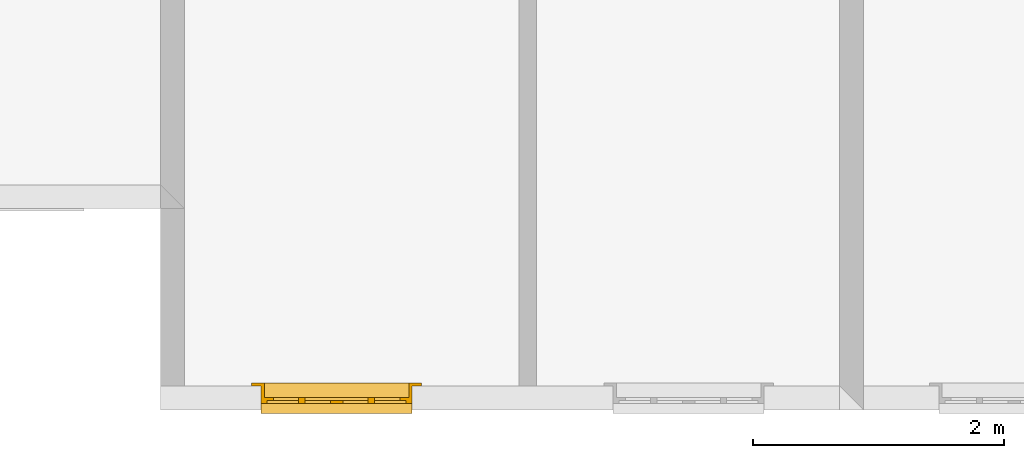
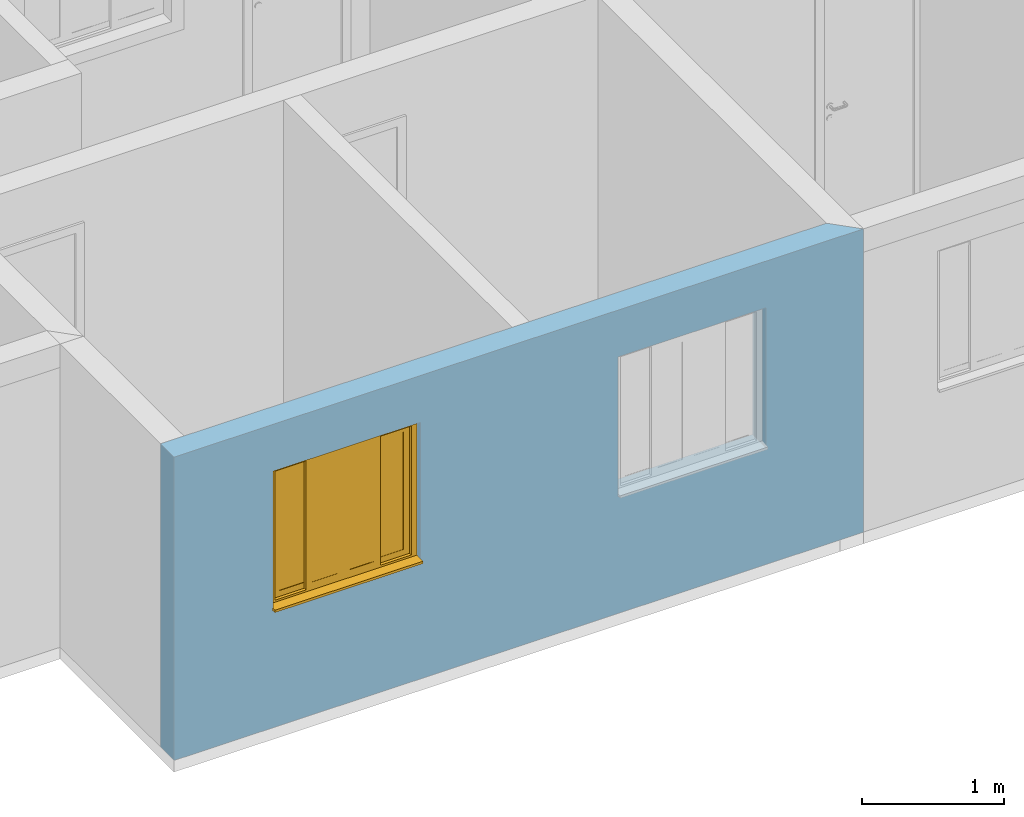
# One storey, part 6 of 47: 1 window, 2 openings, plus 1 element that does not belong to this part.
"""IFC2X3 building model written with IfcOpenShell, lengths in millimetres."""

from ifc_helpers import new_model, entity, si_unit, converted_unit, derived_unit, money_unit, direction, frame, origin_with_axes, origin_2d_with_axis, place, context, subcontext, project, spatial, polyline, rectangle, outline, extrude, open_shell, faceted_brep, surface_model, source, transform, mapped, material, layer, layer_set, layer_usage, type_object, element, fill, save


model = new_model("IFC2X3")

# Units and contexts
model_context = context("Model", 3, precision=0.01, world=origin_with_axes(), true_north=direction((0.0, 1.0)))
body_context = subcontext(model_context, "Body", "Model", "MODEL_VIEW")
ifc_project = project(units=[si_unit("LENGTHUNIT", "METRE", prefix="MILLI"), si_unit("AREAUNIT", "SQUARE_METRE"), si_unit("VOLUMEUNIT", "CUBIC_METRE"), converted_unit("PLANEANGLEUNIT", "DEGREE", entity("IfcPlaneAngleMeasure", 0.0174532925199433), si_unit("PLANEANGLEUNIT", "RADIAN"), dimensions=[0, 0, 0, 0, 0, 0, 0]), money_unit("USD"), converted_unit("TIMEUNIT", "Year", entity("IfcTimeMeasure", 31557600.0), si_unit("TIMEUNIT", "SECOND"), dimensions=[0, 0, 1, 0, 0, 0, 0]), si_unit("MASSUNIT", "GRAM", prefix="KILO"), si_unit("THERMODYNAMICTEMPERATUREUNIT", "DEGREE_CELSIUS"), si_unit("LUMINOUSINTENSITYUNIT", "LUMEN"), si_unit("ENERGYUNIT", "JOULE", prefix="MEGA"), derived_unit("THERMALCONDUCTANCEUNIT", [(si_unit("POWERUNIT", "WATT"), 1), (si_unit("LENGTHUNIT", "METRE"), -1), (si_unit("THERMODYNAMICTEMPERATUREUNIT", "KELVIN"), -1)]), derived_unit("SPECIFICHEATCAPACITYUNIT", [(si_unit("ENERGYUNIT", "JOULE"), 1), (si_unit("MASSUNIT", "GRAM", prefix="KILO"), -1), (si_unit("THERMODYNAMICTEMPERATUREUNIT", "KELVIN"), -1)]), derived_unit("MASSDENSITYUNIT", [(si_unit("MASSUNIT", "GRAM", prefix="KILO"), 1), (si_unit("VOLUMEUNIT", "CUBIC_METRE"), -1)])], contexts=[model_context])

# Site, building, storey
site_placement = place(None, origin_with_axes())
site = spatial("IfcSite", under=ifc_project, at=site_placement, Name="Local", CompositionType="ELEMENT")
building_placement = place(site_placement, origin_with_axes())
building = spatial("IfcBuilding", under=site, at=building_placement, Name="Construção", CompositionType="ELEMENT")
storey_placement = place(building_placement, origin_with_axes())
storey = spatial("IfcBuildingStorey", under=building, at=storey_placement, Name="Pavimento Tipo", CompositionType="ELEMENT", Elevation=0.0)

# Wall, openings, window
ifc_material = material(Name="Concreto - Estrutural")
ifc_layer = layer(ifc_material, 190.0, ventilated="UNKNOWN")
ifc_layer_set = layer_set([ifc_layer], Name="Concreto - Estrutural 190")
ifc_layer_usage = layer_usage(ifc_layer_set, "AXIS2", "NEGATIVE", 190.0)
wall_type = type_object("IfcWallType", Name="Concreto - Estrutural 190", PredefinedType="NOTDEFINED")
wall_placement = place(storey_placement, frame((-4547.433002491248, -1603.018582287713, 0.0), z_axis=(0.0, 0.0, 1.0), x_axis=(1.0, 0.0, 0.0)))
wall = element("IfcWallStandardCase", 1, at=wall_placement, inside=storey, type_object=wall_type, material=ifc_layer_usage, Name="Apartamento 3 - Parede-004", context=body_context, shape_type="SweptSolid", body=[
    extrude(outline(polyline([(0.0, 0.0), (5589.999999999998, 0.0), (5399.999999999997, 189.9999999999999), (0.0, 189.9999999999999), (0.0, 0.0)])), origin_with_axes(), (0.0, 0.0, 1.0), 2600.0),
])
opening_1_placement = place(wall_placement, frame((4199.999999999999, 0.0, 1000.0), z_axis=(0.0, 0.0, 1.0), x_axis=(1.0, 0.0, 0.0)))
element("IfcOpeningElement", 2, at=opening_1_placement, cuts=wall, Name="Apartamento 3 - J06", context=body_context, shape_type="SweptSolid", body=[
    extrude(rectangle(XDim=1200.0, YDim=1200.0, at=origin_2d_with_axis()), frame((0.0, 50.00000000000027, 600.0000000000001), z_axis=(0.0, -1.0, 0.0), x_axis=(-1.0, 0.0, 0.0)), (0.0, 0.0, -1.0), 330.0),
    extrude(rectangle(XDim=1200.0, YDim=1200.0, at=origin_2d_with_axis()), frame((0.0, 50.00000000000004, 600.0000000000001), z_axis=(0.0, 1.0, 0.0), x_axis=(-1.0, 0.0, 0.0)), (0.0, 0.0, -1.0), 240.0),
    extrude(rectangle(XDim=1350.0, YDim=1350.0, at=origin_2d_with_axis()), frame((0.0, 190.0000000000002, 599.9999999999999), z_axis=(0.0, -1.0, 0.0), x_axis=(-1.0, 0.0, 0.0)), (0.0, 0.0, -1.0), 240.0),
])
opening_2_placement = place(wall_placement, frame((1400.0, 0.0, 1000.0), z_axis=(0.0, 0.0, 1.0), x_axis=(1.0, 0.0, 0.0)))
opening_2 = element("IfcOpeningElement", 3, at=opening_2_placement, cuts=wall, Name="Apartamento 3 - J05", context=body_context, shape_type="SweptSolid", body=[
    extrude(rectangle(XDim=1200.0, YDim=1200.0, at=origin_2d_with_axis()), frame((0.0, 50.00000000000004, 600.0000000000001), z_axis=(0.0, 1.0, 0.0), x_axis=(1.0, 0.0, 0.0)), (0.0, 0.0, 1.0), 330.0),
    extrude(rectangle(XDim=1200.0, YDim=1200.0, at=origin_2d_with_axis()), frame((0.0, 50.00000000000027, 600.0000000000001), z_axis=(0.0, -1.0, 0.0), x_axis=(1.0, 0.0, 0.0)), (0.0, 0.0, 1.0), 240.0),
    extrude(rectangle(XDim=1350.0, YDim=1350.0, at=origin_2d_with_axis()), frame((0.0, 189.9999999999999, 599.9999999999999), z_axis=(0.0, 1.0, 0.0), x_axis=(1.0, 0.0, 0.0)), (0.0, 0.0, 1.0), 240.0),
])
window_style = type_object("IfcWindowStyle", Name="Janela de Correr 4-Folhas 27", ConstructionType="NOTDEFINED", OperationType="USERDEFINED", ParameterTakesPrecedence=False, Sizeable=False)
shared_shape = source(origin_with_axes(), body_context, "Body", "SurfaceModel", [
    faceted_brep([(600.0, 0.0, 5.0), (600.0, 50.0, 5.000000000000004), (600.0, 50.0, 27.37961103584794), (600.0, 0.0, 30.0), (-600.0, 0.0, 5.0), (-600.0, 50.0, 5.000000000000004), (-600.0, 80.0, 5.000000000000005), (600.0, 80.0, 5.000000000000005), (600.0, 80.0, 25.8073776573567), (-600.0, 80.0, 25.8073776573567), (-600.0, 50.0, 27.37961103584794), (-600.0, 0.0, 30.0)], [[[0, 1, 2, 3]], [[0, 4, 5, 6, 7, 1]], [[1, 7, 8, 2]], [[3, 2, 8, 9, 10, 11]], [[4, 0, 3, 11]], [[5, 4, 11, 10]], [[6, 5, 10, 9]], [[7, 6, 9, 8]]]),
    faceted_brep([(600.0, 0.0, 0.0), (600.0, 50.0, 0.0), (600.0, 50.0, 5.0), (600.0, 0.0, 5.0), (-600.0, 0.0, 0.0), (-600.0, 50.0, 0.0), (-600.0, 50.0, 5.0), (-600.0, 0.0, 5.0)], [[[0, 1, 2, 3]], [[0, 4, 5, 1]], [[1, 5, 6, 2]], [[3, 2, 6, 7]], [[4, 0, 3, 7]], [[5, 4, 7, 6]]]),
    faceted_brep([(600.0, -50.0, 0.0), (600.0, -140.0, 0.0), (-600.0, -140.0, 0.0), (-600.0, -50.0, 0.0), (600.0, -50.00000000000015, 1200.0), (600.0, -140.0000000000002, 1200.0), (-600.0, -140.0000000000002, 1200.0), (575.0, -140.0, 24.99999999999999), (-575.0, -140.0, 24.99999999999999), (-575.0, -140.0000000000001, 1175.0), (575.0, -140.0000000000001, 1175.0), (-600.0, -50.00000000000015, 1200.0), (575.0, -50.0, 24.99999999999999), (575.0, -50.00000000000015, 1175.0), (-575.0, -50.00000000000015, 1175.0), (-575.0, -50.0, 24.99999999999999)], [[[0, 1, 2, 3]], [[4, 5, 1, 0]], [[1, 5, 6, 2], [7, 8, 9, 10]], [[3, 2, 6, 11]], [[0, 3, 11, 4], [12, 13, 14, 15]], [[11, 6, 5, 4]], [[15, 8, 7, 12]], [[14, 9, 8, 15]], [[13, 10, 9, 14]], [[12, 7, 10, 13]]]),
    faceted_brep([(674.9999999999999, -165.0, -75.00000000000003), (575.0, -165.0, 24.99999999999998), (575.0, -140.0, 24.99999999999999), (674.9999999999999, -140.0, -75.00000000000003), (674.9999999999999, -165.0000000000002, 1275.0), (575.0, -165.0000000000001, 1175.0), (575.0, -140.0000000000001, 1175.0), (674.9999999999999, -140.0000000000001, 1275.0)], [[[0, 1, 2, 3]], [[0, 4, 5, 1]], [[1, 5, 6, 2]], [[3, 2, 6, 7]], [[4, 0, 3, 7]], [[5, 4, 7, 6]]]),
    faceted_brep([(-674.9999999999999, -165.0000000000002, 1275.0), (-575.0, -165.0000000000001, 1175.0), (-575.0, -140.0000000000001, 1175.0), (-674.9999999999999, -140.0000000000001, 1275.0), (-674.9999999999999, -165.0, -75.00000000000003), (-575.0, -165.0, 24.99999999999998), (-575.0, -140.0, 24.99999999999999), (-674.9999999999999, -140.0, -75.00000000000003)], [[[0, 1, 2, 3]], [[0, 4, 5, 1]], [[1, 5, 6, 2]], [[3, 2, 6, 7]], [[4, 0, 3, 7]], [[5, 4, 7, 6]]]),
    faceted_brep([(-674.9999999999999, -165.0, -75.00000000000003), (-575.0, -165.0, 24.99999999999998), (-575.0, -140.0, 24.99999999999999), (-674.9999999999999, -140.0, -75.00000000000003), (674.9999999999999, -165.0, -75.00000000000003), (575.0, -165.0, 24.99999999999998), (575.0, -140.0, 24.99999999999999), (674.9999999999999, -140.0, -75.00000000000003)], [[[0, 1, 2, 3]], [[0, 4, 5, 1]], [[1, 5, 6, 2]], [[3, 2, 6, 7]], [[4, 0, 3, 7]], [[5, 4, 7, 6]]]),
    faceted_brep([(674.9999999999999, -165.0000000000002, 1275.0), (575.0, -165.0000000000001, 1175.0), (575.0, -140.0000000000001, 1175.0), (674.9999999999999, -140.0000000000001, 1275.0), (-674.9999999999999, -165.0000000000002, 1275.0), (-575.0, -165.0000000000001, 1175.0), (-575.0, -140.0000000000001, 1175.0), (-674.9999999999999, -140.0000000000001, 1275.0)], [[[0, 1, 2, 3]], [[0, 4, 5, 1]], [[1, 5, 6, 2]], [[3, 2, 6, 7]], [[4, 0, 3, 7]], [[5, 4, 7, 6]]]),
    faceted_brep([(552.9999999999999, -50.00000000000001, 47.0), (552.9999999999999, -50.00000000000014, 1153.0), (552.9999999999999, 0.0, 1153.0), (552.9999999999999, 0.0, 47.00000000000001), (600.0, -50.00000000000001, 47.0), (600.0, -50.00000000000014, 1153.0), (600.0, 0.0, 1153.0), (600.0, 0.0, 47.00000000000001)], [[[0, 1, 2, 3]], [[0, 4, 5, 1]], [[1, 5, 6, 2]], [[3, 2, 6, 7]], [[4, 0, 3, 7]], [[5, 4, 7, 6]]]),
    faceted_brep([(-600.0, -50.00000000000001, 47.0), (-600.0, -50.00000000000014, 1153.0), (-600.0, 0.0, 1153.0), (-600.0, 0.0, 47.00000000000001), (-552.9999999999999, -50.00000000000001, 47.0), (-552.9999999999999, -50.00000000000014, 1153.0), (-552.9999999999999, 0.0, 1153.0), (-552.9999999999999, 0.0, 47.00000000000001)], [[[0, 1, 2, 3]], [[0, 4, 5, 1]], [[1, 5, 6, 2]], [[3, 2, 6, 7]], [[4, 0, 3, 7]], [[5, 4, 7, 6]]]),
    faceted_brep([(-600.0, -50.00000000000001, 47.0), (-552.9999999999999, -50.00000000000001, 47.0), (-552.9999999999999, 0.0, 47.00000000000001), (-600.0, 0.0, 47.00000000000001), (-600.0, -50.0, 0.0), (600.0, -50.0, 0.0), (600.0, -50.00000000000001, 47.0), (552.9999999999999, -50.00000000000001, 47.0), (552.9999999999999, 0.0, 47.00000000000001), (600.0, 0.0, 47.00000000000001), (600.0, 0.0, 0.0), (-600.0, 0.0, 0.0)], [[[0, 1, 2, 3]], [[0, 4, 5, 6, 7, 1]], [[1, 7, 8, 2]], [[3, 2, 8, 9, 10, 11]], [[4, 0, 3, 11]], [[5, 4, 11, 10]], [[6, 5, 10, 9]], [[7, 6, 9, 8]]]),
    faceted_brep([(-600.0, -50.00000000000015, 1200.0), (600.0, -50.00000000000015, 1200.0), (600.0, 0.0, 1200.0), (-600.0, 0.0, 1200.0), (-600.0, -50.00000000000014, 1153.0), (-552.9999999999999, -50.00000000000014, 1153.0), (-276.5, -50.00000000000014, 1153.0), (0.0, -50.00000000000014, 1153.0), (276.4999999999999, -50.00000000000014, 1153.0), (552.9999999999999, -50.00000000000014, 1153.0), (600.0, -50.00000000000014, 1153.0), (600.0, 0.0, 1153.0), (552.9999999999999, 0.0, 1153.0), (276.4999999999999, 0.0, 1153.0), (0.0, 0.0, 1153.0), (-276.5, 0.0, 1153.0), (-552.9999999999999, 0.0, 1153.0), (-600.0, 0.0, 1153.0)], [[[0, 1, 2, 3]], [[0, 4, 5, 6, 7, 8, 9, 10, 1]], [[1, 10, 11, 2]], [[3, 2, 11, 12, 13, 14, 15, 16, 17]], [[4, 0, 3, 17]], [[5, 4, 17, 16]], [[6, 5, 16, 15]], [[7, 6, 15, 14]], [[8, 7, 14, 13]], [[9, 8, 13, 12]], [[10, 9, 12, 11]]]),
    faceted_brep([(502.9999999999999, -50.00000000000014, 1103.0), (552.9999999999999, -50.00000000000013, 1103.0), (552.9999999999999, -25.00000000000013, 1103.0), (502.9999999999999, -25.00000000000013, 1103.0), (502.9999999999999, -50.00000000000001, 97.0), (552.9999999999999, -50.00000000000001, 97.0), (552.9999999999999, -25.0, 97.0), (502.9999999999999, -25.00000000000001, 97.0)], [[[0, 1, 2, 3]], [[0, 4, 5, 1]], [[1, 5, 6, 2]], [[3, 2, 6, 7]], [[4, 0, 3, 7]], [[5, 4, 7, 6]]]),
    faceted_brep([(301.4999999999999, -50.00000000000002, 97.0), (251.4999999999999, -50.00000000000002, 97.0), (251.4999999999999, -25.00000000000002, 97.0), (301.4999999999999, -25.00000000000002, 97.0), (301.4999999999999, -50.00000000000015, 1103.0), (251.4999999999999, -50.00000000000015, 1103.0), (251.4999999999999, -25.00000000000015, 1103.0), (301.4999999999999, -25.00000000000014, 1103.0)], [[[0, 1, 2, 3]], [[0, 4, 5, 1]], [[1, 5, 6, 2]], [[3, 2, 6, 7]], [[4, 0, 3, 7]], [[5, 4, 7, 6]]]),
    faceted_brep([(251.4999999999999, -50.00000000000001, 47.0), (251.4999999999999, -50.00000000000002, 97.0), (251.4999999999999, -25.00000000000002, 97.0), (251.4999999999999, -25.00000000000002, 47.0), (552.9999999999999, -50.0, 47.0), (552.9999999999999, -50.00000000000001, 97.0), (502.9999999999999, -50.00000000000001, 97.0), (301.4999999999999, -50.00000000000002, 97.0), (301.4999999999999, -25.00000000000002, 97.0), (502.9999999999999, -25.00000000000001, 97.0), (552.9999999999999, -25.0, 97.0), (552.9999999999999, -25.0, 47.0)], [[[0, 1, 2, 3]], [[0, 4, 5, 6, 7, 1]], [[1, 7, 8, 2]], [[3, 2, 8, 9, 10, 11]], [[4, 0, 3, 11]], [[5, 4, 11, 10]], [[6, 5, 10, 9]], [[7, 6, 9, 8]]]),
    faceted_brep([(552.9999999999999, -50.00000000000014, 1153.0), (552.9999999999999, -50.00000000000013, 1103.0), (552.9999999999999, -25.00000000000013, 1103.0), (552.9999999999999, -25.00000000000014, 1153.0), (251.4999999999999, -50.00000000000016, 1153.0), (251.4999999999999, -50.00000000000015, 1103.0), (301.4999999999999, -50.00000000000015, 1103.0), (502.9999999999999, -50.00000000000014, 1103.0), (502.9999999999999, -25.00000000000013, 1103.0), (301.4999999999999, -25.00000000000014, 1103.0), (251.4999999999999, -25.00000000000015, 1103.0), (251.4999999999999, -25.00000000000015, 1153.0)], [[[0, 1, 2, 3]], [[0, 4, 5, 6, 7, 1]], [[1, 7, 8, 2]], [[3, 2, 8, 9, 10, 11]], [[4, 0, 3, 11]], [[5, 4, 11, 10]], [[6, 5, 10, 9]], [[7, 6, 9, 8]]]),
    surface_model("IfcShellBasedSurfaceModel", [(502.9999999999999, -47.50000000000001, 97.0), (502.9999999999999, -47.50000000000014, 1103.0), (301.4999999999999, -47.50000000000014, 1103.0), (301.4999999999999, -47.50000000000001, 97.0)], [open_shell([[[0, 1, 2, 3]]])]),
    surface_model("IfcShellBasedSurfaceModel", [(502.9999999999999, -27.50000000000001, 97.0), (301.4999999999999, -27.50000000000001, 97.0), (301.4999999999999, -27.50000000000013, 1103.0), (502.9999999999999, -27.50000000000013, 1103.0)], [open_shell([[[0, 1, 2, 3]]])]),
    faceted_brep([(251.4999999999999, -25.00000000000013, 1103.0), (301.4999999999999, -25.00000000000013, 1103.0), (301.4999999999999, 0.0, 1103.0), (251.4999999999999, 0.0, 1103.0), (251.4999999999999, -25.00000000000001, 97.0), (301.4999999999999, -25.0, 97.0), (301.4999999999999, 0.0, 97.0), (251.4999999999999, 0.0, 97.0)], [[[0, 1, 2, 3]], [[0, 4, 5, 1]], [[1, 5, 6, 2]], [[3, 2, 6, 7]], [[4, 0, 3, 7]], [[5, 4, 7, 6]]]),
    faceted_brep([(49.99999999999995, -25.00000000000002, 97.0), (0.0, -25.00000000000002, 97.0), (0.0, 0.0, 97.0), (49.99999999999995, 0.0, 97.0), (49.99999999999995, -25.00000000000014, 1103.0), (0.0, -25.00000000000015, 1103.0), (0.0, 0.0, 1103.0), (49.99999999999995, 0.0, 1103.0)], [[[0, 1, 2, 3]], [[0, 4, 5, 1]], [[1, 5, 6, 2]], [[3, 2, 6, 7]], [[4, 0, 3, 7]], [[5, 4, 7, 6]]]),
    faceted_brep([(0.0, -25.00000000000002, 47.0), (0.0, -25.00000000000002, 97.0), (0.0, 0.0, 97.0), (0.0, 0.0, 47.0), (301.4999999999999, -25.0, 47.0), (301.4999999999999, -25.0, 97.0), (251.4999999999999, -25.00000000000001, 97.0), (49.99999999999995, -25.00000000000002, 97.0), (49.99999999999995, 0.0, 97.0), (251.4999999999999, 0.0, 97.0), (301.4999999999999, 0.0, 97.0), (301.4999999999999, 0.0, 47.0)], [[[0, 1, 2, 3]], [[0, 4, 5, 6, 7, 1]], [[1, 7, 8, 2]], [[3, 2, 8, 9, 10, 11]], [[4, 0, 3, 11]], [[5, 4, 11, 10]], [[6, 5, 10, 9]], [[7, 6, 9, 8]]]),
    faceted_brep([(301.4999999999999, -25.00000000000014, 1153.0), (301.4999999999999, -25.00000000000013, 1103.0), (301.4999999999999, 0.0, 1103.0), (301.4999999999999, 0.0, 1153.0), (0.0, -25.00000000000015, 1153.0), (0.0, -25.00000000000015, 1103.0), (49.99999999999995, -25.00000000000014, 1103.0), (251.4999999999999, -25.00000000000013, 1103.0), (251.4999999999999, 0.0, 1103.0), (49.99999999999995, 0.0, 1103.0), (0.0, 0.0, 1103.0), (0.0, 0.0, 1153.0)], [[[0, 1, 2, 3]], [[0, 4, 5, 6, 7, 1]], [[1, 7, 8, 2]], [[3, 2, 8, 9, 10, 11]], [[4, 0, 3, 11]], [[5, 4, 11, 10]], [[6, 5, 10, 9]], [[7, 6, 9, 8]]]),
    surface_model("IfcShellBasedSurfaceModel", [(251.4999999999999, -22.50000000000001, 97.0), (251.4999999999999, -22.50000000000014, 1103.0), (49.99999999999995, -22.50000000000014, 1103.0), (49.99999999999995, -22.50000000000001, 97.0)], [open_shell([[[0, 1, 2, 3]]])]),
    surface_model("IfcShellBasedSurfaceModel", [(251.4999999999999, -2.500000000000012, 97.0), (49.99999999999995, -2.500000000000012, 97.0), (49.99999999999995, -2.500000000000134, 1103.0), (251.4999999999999, -2.500000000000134, 1103.0)], [open_shell([[[0, 1, 2, 3]]])]),
    faceted_brep([(-50.00000000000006, -25.00000000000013, 1103.0), (0.0, -25.00000000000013, 1103.0), (0.0, 0.0, 1103.0), (-50.00000000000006, 0.0, 1103.0), (-50.00000000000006, -25.00000000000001, 97.0), (0.0, -25.0, 97.0), (0.0, 0.0, 97.0), (-50.00000000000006, 0.0, 97.0)], [[[0, 1, 2, 3]], [[0, 4, 5, 1]], [[1, 5, 6, 2]], [[3, 2, 6, 7]], [[4, 0, 3, 7]], [[5, 4, 7, 6]]]),
    faceted_brep([(-251.5000000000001, -25.00000000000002, 97.0), (-301.5000000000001, -25.00000000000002, 97.0), (-301.5000000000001, 0.0, 97.0), (-251.5000000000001, 0.0, 97.0), (-251.5000000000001, -25.00000000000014, 1103.0), (-301.5000000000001, -25.00000000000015, 1103.0), (-301.5000000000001, 0.0, 1103.0), (-251.5000000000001, 0.0, 1103.0)], [[[0, 1, 2, 3]], [[0, 4, 5, 1]], [[1, 5, 6, 2]], [[3, 2, 6, 7]], [[4, 0, 3, 7]], [[5, 4, 7, 6]]]),
    faceted_brep([(-301.5000000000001, -25.00000000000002, 47.0), (-301.5000000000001, -25.00000000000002, 97.0), (-301.5000000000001, 0.0, 97.0), (-301.5000000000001, 0.0, 47.0), (0.0, -25.0, 47.0), (0.0, -25.0, 97.0), (-50.00000000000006, -25.00000000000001, 97.0), (-251.5000000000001, -25.00000000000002, 97.0), (-251.5000000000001, 0.0, 97.0), (-50.00000000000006, 0.0, 97.0), (0.0, 0.0, 97.0), (0.0, 0.0, 47.0)], [[[0, 1, 2, 3]], [[0, 4, 5, 6, 7, 1]], [[1, 7, 8, 2]], [[3, 2, 8, 9, 10, 11]], [[4, 0, 3, 11]], [[5, 4, 11, 10]], [[6, 5, 10, 9]], [[7, 6, 9, 8]]]),
    faceted_brep([(0.0, -25.00000000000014, 1153.0), (0.0, -25.00000000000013, 1103.0), (0.0, 0.0, 1103.0), (0.0, 0.0, 1153.0), (-301.5000000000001, -25.00000000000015, 1153.0), (-301.5000000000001, -25.00000000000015, 1103.0), (-251.5000000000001, -25.00000000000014, 1103.0), (-50.00000000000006, -25.00000000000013, 1103.0), (-50.00000000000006, 0.0, 1103.0), (-251.5000000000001, 0.0, 1103.0), (-301.5000000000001, 0.0, 1103.0), (-301.5000000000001, 0.0, 1153.0)], [[[0, 1, 2, 3]], [[0, 4, 5, 6, 7, 1]], [[1, 7, 8, 2]], [[3, 2, 8, 9, 10, 11]], [[4, 0, 3, 11]], [[5, 4, 11, 10]], [[6, 5, 10, 9]], [[7, 6, 9, 8]]]),
    surface_model("IfcShellBasedSurfaceModel", [(-50.00000000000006, -22.50000000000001, 97.0), (-50.00000000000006, -22.50000000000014, 1103.0), (-251.5000000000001, -22.50000000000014, 1103.0), (-251.5000000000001, -22.50000000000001, 97.0)], [open_shell([[[0, 1, 2, 3]]])]),
    surface_model("IfcShellBasedSurfaceModel", [(-50.00000000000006, -2.500000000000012, 97.0), (-251.5000000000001, -2.500000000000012, 97.0), (-251.5000000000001, -2.500000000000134, 1103.0), (-50.00000000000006, -2.500000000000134, 1103.0)], [open_shell([[[0, 1, 2, 3]]])]),
    faceted_brep([(-301.5000000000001, -50.00000000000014, 1103.0), (-251.5000000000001, -50.00000000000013, 1103.0), (-251.5000000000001, -25.00000000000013, 1103.0), (-301.5000000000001, -25.00000000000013, 1103.0), (-301.5000000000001, -50.00000000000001, 97.0), (-251.5000000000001, -50.00000000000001, 97.0), (-251.5000000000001, -25.0, 97.0), (-301.5000000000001, -25.00000000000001, 97.0)], [[[0, 1, 2, 3]], [[0, 4, 5, 1]], [[1, 5, 6, 2]], [[3, 2, 6, 7]], [[4, 0, 3, 7]], [[5, 4, 7, 6]]]),
    faceted_brep([(-503.0, -50.00000000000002, 97.0), (-553.0, -50.00000000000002, 97.0), (-553.0, -25.00000000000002, 97.0), (-503.0, -25.00000000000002, 97.0), (-503.0, -50.00000000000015, 1103.0), (-553.0, -50.00000000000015, 1103.0), (-553.0, -25.00000000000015, 1103.0), (-503.0, -25.00000000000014, 1103.0)], [[[0, 1, 2, 3]], [[0, 4, 5, 1]], [[1, 5, 6, 2]], [[3, 2, 6, 7]], [[4, 0, 3, 7]], [[5, 4, 7, 6]]]),
    faceted_brep([(-553.0, -50.00000000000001, 47.0), (-553.0, -50.00000000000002, 97.0), (-553.0, -25.00000000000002, 97.0), (-553.0, -25.00000000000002, 47.0), (-251.5000000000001, -50.0, 47.0), (-251.5000000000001, -50.00000000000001, 97.0), (-301.5000000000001, -50.00000000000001, 97.0), (-503.0, -50.00000000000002, 97.0), (-503.0, -25.00000000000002, 97.0), (-301.5000000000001, -25.00000000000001, 97.0), (-251.5000000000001, -25.0, 97.0), (-251.5000000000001, -25.0, 47.0)], [[[0, 1, 2, 3]], [[0, 4, 5, 6, 7, 1]], [[1, 7, 8, 2]], [[3, 2, 8, 9, 10, 11]], [[4, 0, 3, 11]], [[5, 4, 11, 10]], [[6, 5, 10, 9]], [[7, 6, 9, 8]]]),
    faceted_brep([(-251.5000000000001, -50.00000000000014, 1153.0), (-251.5000000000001, -50.00000000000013, 1103.0), (-251.5000000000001, -25.00000000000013, 1103.0), (-251.5000000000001, -25.00000000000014, 1153.0), (-553.0, -50.00000000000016, 1153.0), (-553.0, -50.00000000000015, 1103.0), (-503.0, -50.00000000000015, 1103.0), (-301.5000000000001, -50.00000000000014, 1103.0), (-301.5000000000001, -25.00000000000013, 1103.0), (-503.0, -25.00000000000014, 1103.0), (-553.0, -25.00000000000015, 1103.0), (-553.0, -25.00000000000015, 1153.0)], [[[0, 1, 2, 3]], [[0, 4, 5, 6, 7, 1]], [[1, 7, 8, 2]], [[3, 2, 8, 9, 10, 11]], [[4, 0, 3, 11]], [[5, 4, 11, 10]], [[6, 5, 10, 9]], [[7, 6, 9, 8]]]),
    surface_model("IfcShellBasedSurfaceModel", [(-301.5, -47.50000000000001, 97.0), (-301.5, -47.50000000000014, 1103.0), (-503.0, -47.50000000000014, 1103.0), (-503.0, -47.50000000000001, 97.0)], [open_shell([[[0, 1, 2, 3]]])]),
    surface_model("IfcShellBasedSurfaceModel", [(-301.5, -27.50000000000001, 97.0), (-503.0, -27.50000000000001, 97.0), (-503.0, -27.50000000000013, 1103.0), (-301.5, -27.50000000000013, 1103.0)], [open_shell([[[0, 1, 2, 3]]])]),
])
window_placement = place(opening_2_placement, frame((600.0000000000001, 0.0, 0.0), z_axis=(0.0, 0.0, 1.0), x_axis=(-1.0, 0.0, 0.0)))
window = element("IfcWindow", 4, at=window_placement, inside=storey, type_object=window_style, Name="Apartamento 3 - J05", ObjectType="WINDOW", OverallHeight=1200.0, OverallWidth=1200.0, context=body_context, shape_type="MappedRepresentation", body=[
    mapped(shared_shape, transform((600.0000000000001, -50.00000000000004, 0.0))),
])
fill(opening_2, window)

save(model, "model.ifc")
